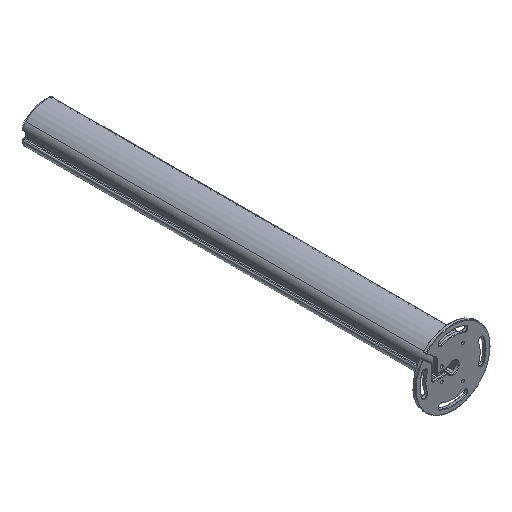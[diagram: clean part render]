
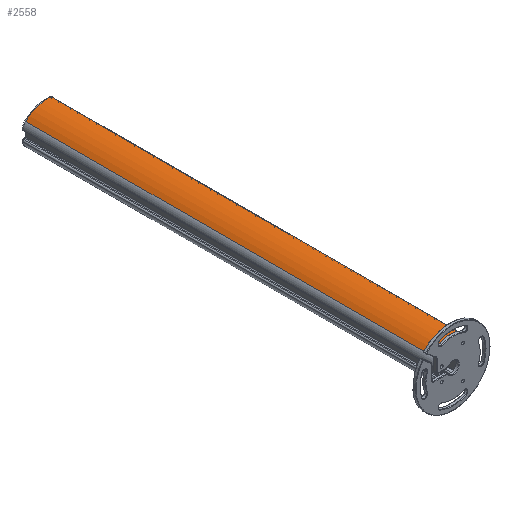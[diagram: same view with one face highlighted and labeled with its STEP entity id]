
A CAD part, isometric view. The second image highlights one B-rep face of the part: STEP entity #2558.
In plain terms, the highlighted cylindrical face has radius 79.059 mm (diameter 158.118 mm), a partial arc.
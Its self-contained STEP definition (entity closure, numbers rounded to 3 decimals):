
#72=CARTESIAN_POINT('',(24.886,-525.,-29.268));
#73=DIRECTION('',(0.,1.,0.));
#74=DIRECTION('',(-0.694,0.,0.72));
#75=AXIS2_PLACEMENT_3D('',#72,#73,#74);
#646=DIRECTION('',(0.,1.,0.));
#647=VECTOR('',#646,1050.);
#648=CARTESIAN_POINT('',(35.448,-525.,49.083));
#649=LINE('',#648,#647);
#650=DIRECTION('',(0.,1.,0.));
#651=VECTOR('',#650,1050.);
#652=CARTESIAN_POINT('',(-30.018,-525.,27.617));
#653=LINE('',#652,#651);
#1015=CARTESIAN_POINT('',(24.886,525.,-29.268));
#1016=DIRECTION('',(0.,1.,0.));
#1017=DIRECTION('',(-0.694,0.,0.72));
#1018=AXIS2_PLACEMENT_3D('',#1015,#1016,#1017);
#1116=CARTESIAN_POINT('',(-30.018,-525.,27.617));
#1117=VERTEX_POINT('',#1116);
#1118=CARTESIAN_POINT('',(35.448,-525.,49.083));
#1119=VERTEX_POINT('',#1118);
#1282=CARTESIAN_POINT('',(-30.018,525.,27.617));
#1283=VERTEX_POINT('',#1282);
#1284=CARTESIAN_POINT('',(35.448,525.,49.083));
#1285=VERTEX_POINT('',#1284);
#2545=CARTESIAN_POINT('',(24.886,-525.,-29.268));
#2546=DIRECTION('',(0.,1.,0.));
#2547=DIRECTION('',(1.,0.,0.));
#2548=AXIS2_PLACEMENT_3D('',#2545,#2546,#2547);
#2549=CYLINDRICAL_SURFACE('',#2548,79.059);
#2550=ORIENTED_EDGE('',*,*,#1453,.F.);
#2552=ORIENTED_EDGE('',*,*,#2551,.T.);
#2554=ORIENTED_EDGE('',*,*,#2553,.T.);
#2555=ORIENTED_EDGE('',*,*,#2537,.F.);
#2556=EDGE_LOOP('',(#2550,#2552,#2554,#2555));
#2557=FACE_OUTER_BOUND('',#2556,.F.);
#2558=ADVANCED_FACE('',(#2557),#2549,.T.);
#76=CIRCLE('',#75,79.059);
#1019=CIRCLE('',#1018,79.059);
#1453=EDGE_CURVE('',#1117,#1119,#76,.T.);
#2537=EDGE_CURVE('',#1119,#1285,#649,.T.);
#2551=EDGE_CURVE('',#1117,#1283,#653,.T.);
#2553=EDGE_CURVE('',#1283,#1285,#1019,.T.);
